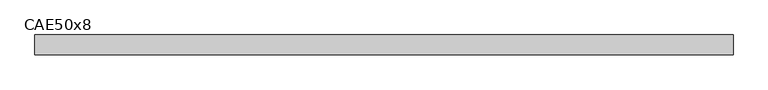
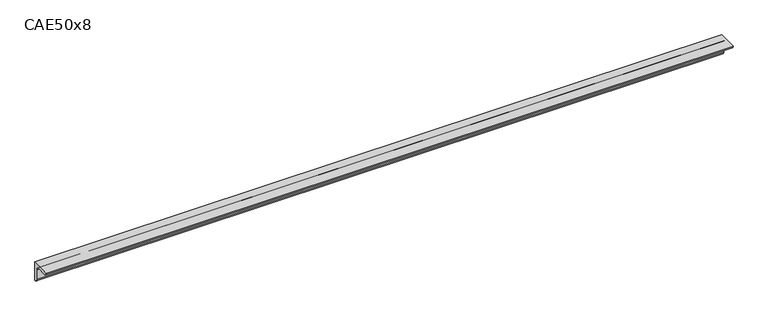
"""IFC4 building model written with IfcOpenShell, lengths in millimetres: beam geometry, L-Cornières : CAE50x8."""

from ifc_helpers import new_model, si_unit, point, frame, frame_2d, origin, place, context, project, spatial, polyline, circle_curve, trimmed, segment, composite_curve, outline, extrude, source, transform, mapped, element, save


def cae50x8_e41a634f(model_context):
    return source(origin(), model_context, "Body", "SweptSolid", [
        extrude(outline(composite_curve([segment(polyline([(15.2, 15.2), (15.2, -34.8)]), True, "CONTINUOUS"), segment(trimmed(circle_curve(frame_2d((15.2, -26.8)), 8.0), [point((15.2, -34.8))], [point((7.2, -26.8))], False, "CARTESIAN"), True, "CONTINUOUS"), segment(polyline([(7.2, -26.8), (7.2, -0.8)]), True, "CONTINUOUS"), segment(trimmed(circle_curve(frame_2d((-0.8, -0.8)), 8.0), [point((7.2, -0.8))], [point((-0.8, 7.2))], True, "CARTESIAN"), True, "CONTINUOUS"), segment(polyline([(-0.8, 7.2), (-26.8, 7.2)]), True, "CONTINUOUS"), segment(trimmed(circle_curve(frame_2d((-26.8, 15.2)), 8.0), [point((-26.8, 7.2))], [point((-34.8, 15.2))], False, "CARTESIAN"), True, "CONTINUOUS"), segment(polyline([(-34.8, 15.2), (15.2, 15.2)]), True, "CONTINUOUS")], self_intersect=False)), frame((-974.5, 0.0, 0.0), z_axis=(1.0, 0.0, 0.0), x_axis=(0.0, 1.0, 0.0)), (0.0, 0.0, 1.0), 1751.0),
    ])


if __name__ == "__main__":
    model = new_model("IFC4")
    model_context = context("Model", 3, world=origin())
    ifc_project = project(units=[si_unit("LENGTHUNIT", "METRE", prefix="MILLI")], contexts=[model_context])
    site = spatial("IfcSite", under=ifc_project)
    building = spatial("IfcBuilding", under=site)
    placement = place(None, origin())
    cae50x8_shape = cae50x8_e41a634f(model_context)
    element("IfcBeam", 1, ObjectType="L-Cornières : CAE50x8", at=placement, inside=building, context=model_context, shape_type="MappedRepresentation", body=[
        mapped(cae50x8_shape, transform((0.0, 0.0, 0.0), x_axis=(1.0, 0.0, 0.0), y_axis=(0.0, 1.0, 0.0), z_axis=(0.0, 0.0, 1.0))),
    ])
    save(model, "model.ifc")
